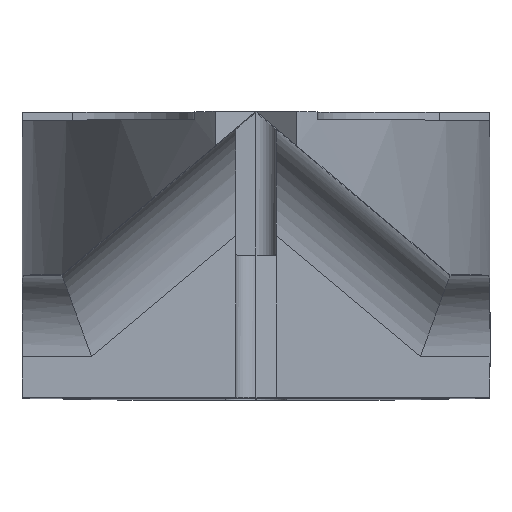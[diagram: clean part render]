
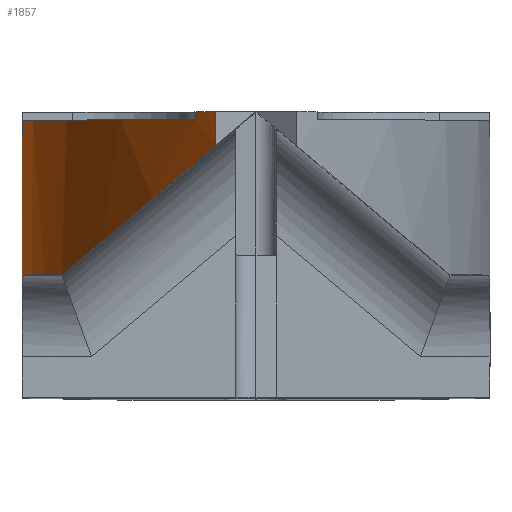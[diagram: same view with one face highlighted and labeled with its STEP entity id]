
A CAD part, top view. The second image highlights one B-rep face of the part: STEP entity #1857.
In plain terms, the highlighted cylindrical face has radius 20 mm (diameter 40 mm), a partial arc.
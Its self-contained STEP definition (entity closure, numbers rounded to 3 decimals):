
#62 = DIRECTION ( 'NONE',  ( 0., 0., 1. ) ) ;
#165 = CARTESIAN_POINT ( 'NONE',  ( -5.75, 2.388, 11.06 ) ) ;
#242 = CARTESIAN_POINT ( 'NONE',  ( -5.75, 2.485, 11.154 ) ) ;
#367 = DIRECTION ( 'NONE',  ( 0., 1., 0. ) ) ;
#418 = VERTEX_POINT ( 'NONE', #660 ) ;
#569 = CARTESIAN_POINT ( 'NONE',  ( -5.708, 3., 12.365 ) ) ;
#582 = CARTESIAN_POINT ( 'NONE',  ( -5.746, 2.725, 11.479 ) ) ;
#660 = CARTESIAN_POINT ( 'NONE',  ( -5.698, 3., 12.5 ) ) ;
#739 =( BOUNDED_CURVE ( )  B_SPLINE_CURVE ( 3, ( #4206, #4216, #1746, #4010 ),
 .UNSPECIFIED., .F., .T. ) 
 B_SPLINE_CURVE_WITH_KNOTS ( ( 4, 4 ),
 ( 2.438, 2.827 ),
 .UNSPECIFIED. ) 
 CURVE ( )  GEOMETRIC_REPRESENTATION_ITEM ( )  RATIONAL_B_SPLINE_CURVE ( ( 1., 0.987, 0.987, 1. ) ) 
 REPRESENTATION_ITEM ( '' )  );
#799 = ORIENTED_EDGE ( 'NONE', *, *, #1587, .F. ) ;
#855 = EDGE_CURVE ( 'NONE', #3066, #859, #3632, .T. ) ;
#859 = VERTEX_POINT ( 'NONE', #2829 ) ;
#959 = DIRECTION ( 'NONE',  ( 0., 1., 0. ) ) ;
#1061 = ORIENTED_EDGE ( 'NONE', *, *, #3982, .T. ) ;
#1069 = CARTESIAN_POINT ( 'NONE',  ( -5.75, 6.8, 11.06 ) ) ;
#1078 = VERTEX_POINT ( 'NONE', #1143 ) ;
#1087 = VERTEX_POINT ( 'NONE', #1069 ) ;
#1102 = ORIENTED_EDGE ( 'NONE', *, *, #1752, .F. ) ;
#1135 = LINE ( 'NONE', #4293, #2961 ) ;
#1143 = CARTESIAN_POINT ( 'NONE',  ( -1.5, 6.8, 23.387 ) ) ;
#1145 = ORIENTED_EDGE ( 'NONE', *, *, #1334, .T. ) ;
#1227 = CARTESIAN_POINT ( 'NONE',  ( -5.75, 2.388, 11.06 ) ) ;
#1334 = EDGE_CURVE ( 'NONE', #418, #1342, #4681, .T. ) ;
#1342 = VERTEX_POINT ( 'NONE', #3777 ) ;
#1499 = CARTESIAN_POINT ( 'NONE',  ( -1., 6.161, 24. ) ) ;
#1584 = DIRECTION ( 'NONE',  ( 0., 0., 1. ) ) ;
#1587 = EDGE_CURVE ( 'NONE', #418, #3890, #3634, .T. ) ;
#1624 = LINE ( 'NONE', #3034, #4326 ) ;
#1696 = CARTESIAN_POINT ( 'NONE',  ( -5.73, 2.934, 11.972 ) ) ;
#1746 = CARTESIAN_POINT ( 'NONE',  ( -3.959, 3.678, 19.734 ) ) ;
#1752 = EDGE_CURVE ( 'NONE', #1078, #3066, #1624, .T. ) ;
#1753 = DIRECTION ( 'NONE',  ( 0., 1., 0. ) ) ;
#1857 = ADVANCED_FACE ( 'NONE', ( #4120 ), #4023, .T. ) ;
#1981 = AXIS2_PLACEMENT_3D ( 'NONE', #4250, #2147, #4589 ) ;
#2076 = CARTESIAN_POINT ( 'NONE',  ( -5.743, 2.789, 11.595 ) ) ;
#2109 = CARTESIAN_POINT ( 'NONE',  ( -5.749, 2.573, 11.258 ) ) ;
#2147 = DIRECTION ( 'NONE',  ( 0., -1., 0. ) ) ;
#2159 = EDGE_CURVE ( 'NONE', #3199, #1342, #739, .T. ) ;
#2195 = ORIENTED_EDGE ( 'NONE', *, *, #4160, .T. ) ;
#2472 = CARTESIAN_POINT ( 'NONE',  ( -5.698, 3., 12.5 ) ) ;
#2547 = CIRCLE ( 'NONE', #1981, 20. ) ;
#2761 = EDGE_LOOP ( 'NONE', ( #2195, #4214, #1102, #1061, #2820, #799, #1145, #3606 ) ) ;
#2805 = CARTESIAN_POINT ( 'NONE',  ( -5.75, 4.694, 11.06 ) ) ;
#2820 = ORIENTED_EDGE ( 'NONE', *, *, #3976, .T. ) ;
#2829 = CARTESIAN_POINT ( 'NONE',  ( -1., 7., 24. ) ) ;
#2853 = DIRECTION ( 'NONE',  ( 0., -1., 0. ) ) ;
#2961 = VECTOR ( 'NONE', #4310, 1000. ) ;
#3034 = CARTESIAN_POINT ( 'NONE',  ( -1.5, 6.9, 23.387 ) ) ;
#3066 = VERTEX_POINT ( 'NONE', #4246 ) ;
#3133 = DIRECTION ( 'NONE',  ( 0., 0., 1. ) ) ;
#3199 = VERTEX_POINT ( 'NONE', #1499 ) ;
#3419 = CARTESIAN_POINT ( 'NONE',  ( 14.25, 7., 11.06 ) ) ;
#3439 = CARTESIAN_POINT ( 'NONE',  ( 14.25, 1.927, 11.06 ) ) ;
#3495 = AXIS2_PLACEMENT_3D ( 'NONE', #3419, #1753, #1584 ) ;
#3529 = CARTESIAN_POINT ( 'NONE',  ( -5.716, 2.987, 12.233 ) ) ;
#3606 = ORIENTED_EDGE ( 'NONE', *, *, #2159, .F. ) ;
#3632 = CIRCLE ( 'NONE', #3495, 20. ) ;
#3634 = B_SPLINE_CURVE_WITH_KNOTS ( 'NONE', 3,
 ( #2472, #569, #3529, #1696, #3903, #2076, #582, #2109, #242, #165 ),
 .UNSPECIFIED., .F., .F.,
 ( 4, 2, 2, 2, 4 ),
 ( 0., 0., 0.001, 0.001, 0.002 ),
 .UNSPECIFIED. ) ;
#3707 = AXIS2_PLACEMENT_3D ( 'NONE', #3439, #367, #62 ) ;
#3777 = CARTESIAN_POINT ( 'NONE',  ( -4.767, 3., 17.253 ) ) ;
#3890 = VERTEX_POINT ( 'NONE', #1227 ) ;
#3903 = CARTESIAN_POINT ( 'NONE',  ( -5.735, 2.893, 11.842 ) ) ;
#3914 = CARTESIAN_POINT ( 'NONE',  ( 14.25, 3., 11.06 ) ) ;
#3976 = EDGE_CURVE ( 'NONE', #1087, #3890, #4511, .T. ) ;
#3982 = EDGE_CURVE ( 'NONE', #1078, #1087, #2547, .T. ) ;
#4006 = DIRECTION ( 'NONE',  ( 0., 1., 0. ) ) ;
#4010 = CARTESIAN_POINT ( 'NONE',  ( -4.767, 3., 17.253 ) ) ;
#4023 = CYLINDRICAL_SURFACE ( 'NONE', #3707, 20. ) ;
#4120 = FACE_OUTER_BOUND ( 'NONE', #2761, .T. ) ;
#4160 = EDGE_CURVE ( 'NONE', #3199, #859, #1135, .T. ) ;
#4206 = CARTESIAN_POINT ( 'NONE',  ( -1., 6.161, 24. ) ) ;
#4214 = ORIENTED_EDGE ( 'NONE', *, *, #855, .F. ) ;
#4216 = CARTESIAN_POINT ( 'NONE',  ( -2.688, 4.745, 22.011 ) ) ;
#4246 = CARTESIAN_POINT ( 'NONE',  ( -1.5, 7., 23.387 ) ) ;
#4250 = CARTESIAN_POINT ( 'NONE',  ( 14.25, 6.8, 11.06 ) ) ;
#4293 = CARTESIAN_POINT ( 'NONE',  ( -1., 4.694, 24. ) ) ;
#4310 = DIRECTION ( 'NONE',  ( 0., 1., 0. ) ) ;
#4326 = VECTOR ( 'NONE', #959, 1000. ) ;
#4406 = VECTOR ( 'NONE', #2853, 1000. ) ;
#4511 = LINE ( 'NONE', #2805, #4406 ) ;
#4532 = AXIS2_PLACEMENT_3D ( 'NONE', #3914, #4006, #3133 ) ;
#4589 = DIRECTION ( 'NONE',  ( 0., 0., 1. ) ) ;
#4681 = CIRCLE ( 'NONE', #4532, 20. ) ;
